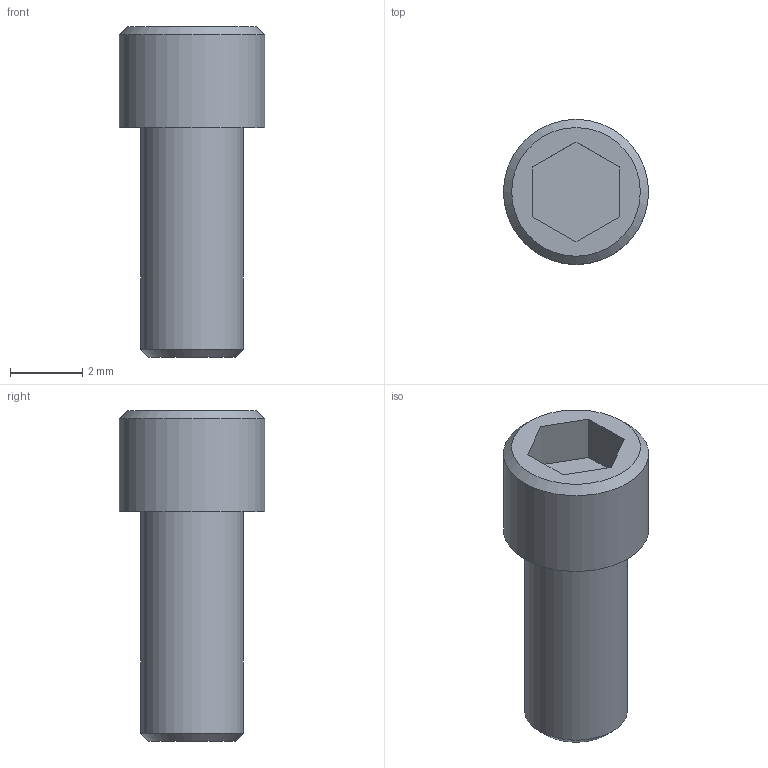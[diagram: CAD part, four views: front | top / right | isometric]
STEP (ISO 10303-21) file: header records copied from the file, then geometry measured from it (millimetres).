
FILE_DESCRIPTION((''),'2;1');
FILE_NAME('C:\Users\Stan\Desktop\import\SHCS 4-40 UNCx0.25.ipt.step','2011-08-18T17:44:27',(''),(''),'Autodesk Inventor 2012','Autodesk Inventor 2012','');
FILE_SCHEMA(('AUTOMOTIVE_DESIGN { 1 0 10303 214 1 1 1 1 }'));
Length unit declared in the file: inch
Products named in the file (1): SHCS 4-40 UNCx0.25
Bounding box: 4.01 x 4.01 x 9.14 mm (x, y, z)
Volume: 68.8 mm3; surface area: 125 mm2
Topology: 1 solids, 1 shells, 14 faces, 28 edges, 18 vertices
Faces by surface type: plane 10, cone 2, cylinder 2
Full cylindrical faces by diameter (mm): 2.845 x1, 4.013 x1
Entity records: 391 total; most frequent: DIRECTION 60, CARTESIAN_POINT 57, ORIENTED_EDGE 48, EDGE_CURVE 24, AXIS2_PLACEMENT_3D 21, EDGE_LOOP 20, VERTEX_POINT 18, VECTOR 18
